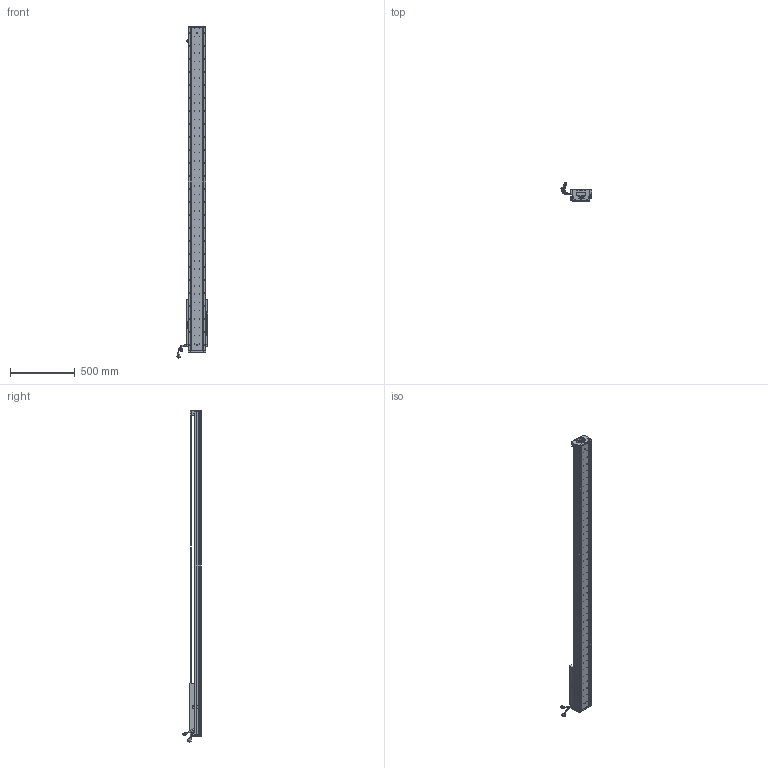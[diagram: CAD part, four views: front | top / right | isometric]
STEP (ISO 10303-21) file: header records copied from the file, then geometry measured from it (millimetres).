
FILE_DESCRIPTION (( 'STEP AP203' ), '1' );
FILE_NAME ('Z5-RY140D-1-L500-B-K.SLDASM_2050.step', '2021-05-17T08:38:40', ( '盈信电脑' ), ( '东莞市道滘镇水果街19号' ), 'SwSTEP 2.0', 'SolidWorks 2016', '' );
FILE_SCHEMA (( 'CONFIG_CONTROL_DESIGN' ));
Length unit declared in the file: millimetre
Products named in the file (36): Z5-RY140-L500詩湍100mm遵_2050; Z-RY140感应器672光电感应片; Z5-RY140D-1-L500-B-K.SLDASM_2050; COVER-Part-1; HOLDER0; HARNESS; 詩湍狟揤裔; LABEL-Part-1; SCREW-M1.6-2; SEAL; SCALE-Part-2; SCREW-M1.6-3; Z-140詩湍傷裔啣; PBU_SHEET; 覜茼ん672; 080黍杅芛假蚾釱21遴; 140蚥薯蝶輸; LABEL; SCREW-M1.7-1; 140-Z-臏賑輸盄裔(21遴); PSLH080_PSLF2; HARNESS-Part-1; 詩湍奻揤裔; Z5-RY140圉猾敕臏賑輸(21遴); SCREW-M1.6-1; HARNESS-Part-2; SCREW-M1.7; SHIELDPLATE; COVER; SCALE-Part-1; SCALE; 榋妏寠巭燃_暯_M2_2; 140雄赽晤鎢ん堤盄; SCREW-M1.6; Z5-RY140-L500直线电机模组底座_2050; SEAL-Part-1
Assembly tree (41 placements, depth 4):
  Z5-RY140D-1-L500-B-K.SLDASM_2050
    Z5-RY140-L500直线电机模组底座_2050
    Z-RY140感应器672光电感应片
    Z5-RY140圉猾敕臏賑輸(21遴)
    覜茼ん672  x3
    Z5-RY140-L500詩湍100mm遵_2050
    PSLH080_PSLF2
      SCALE
        SCALE-Part-1
        SCALE-Part-2
      HARNESS
        HARNESS-Part-1
        HARNESS-Part-2
      LABEL
        LABEL-Part-1
      COVER
        COVER-Part-1
      SEAL
        SEAL-Part-1
      榋妏寠巭燃_暯_M2_2
      SHIELDPLATE
      SCREW-M1.7
      SCREW-M1.7-1
      PBU_SHEET
      SCREW-M1.6
      SCREW-M1.6-1
      SCREW-M1.6-2
      SCREW-M1.6-3
      HOLDER0
    080黍杅芛假蚾釱21遴
    140-Z-臏賑輸盄裔(21遴)
    Z-140詩湍傷裔啣  x2
    詩湍狟揤裔  x2
    詩湍奻揤裔  x2
    140蚥薯蝶輸  x2
    140雄赽晤鎢ん堤盄
Bounding box: 239.84 x 143.88 x 2555.87 mm (x, y, z)
Volume: 8622585 mm3; surface area: 2206852.6 mm2
Topology: 36 solids, 36 shells, 4116 faces, 11176 edges, 7083 vertices
Faces by surface type: cylinder 2230, plane 1366, cone 398, torus 69, bspline 53
Entity records: 130224 total; most frequent: CARTESIAN_POINT 36423, ORIENTED_EDGE 19280, DIRECTION 17984, EDGE_CURVE 9640, AXIS2_PLACEMENT_3D 6708, VERTEX_POINT 6251, VECTOR 4568, LINE 4568
